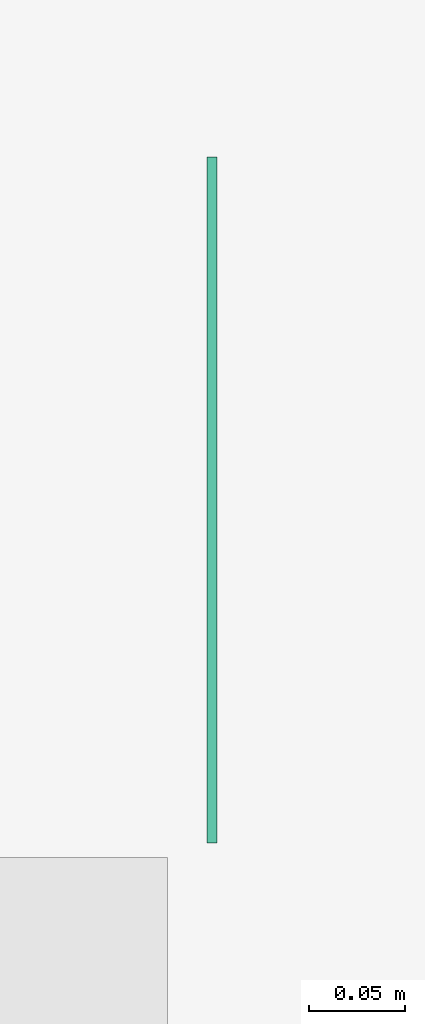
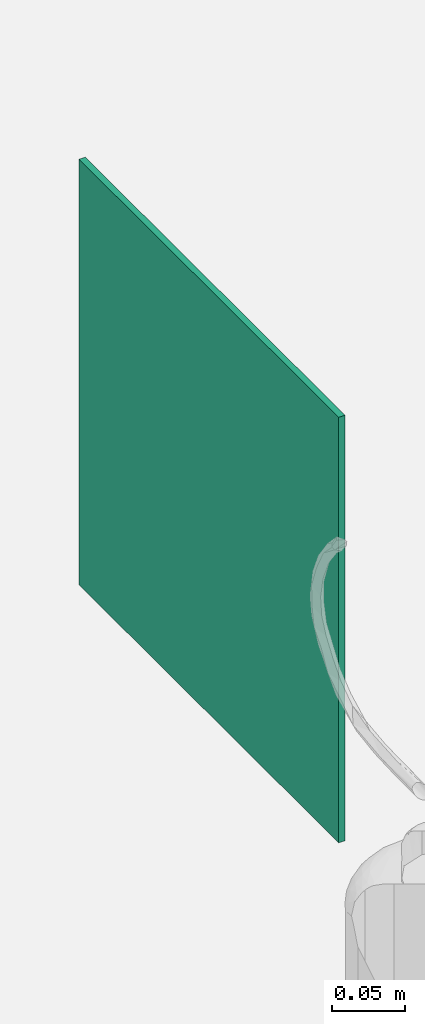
# One storey, part 3 of 6: 1 flow terminal.
"""IFC2X3 building model written with IfcOpenShell, lengths in metres."""

from ifc_helpers import new_model, entity, si_unit, converted_unit, derived_unit, direction, frame, frame_2d, origin, place, context, subcontext, project, spatial, polyline, circle_curve, parameter, trimmed, segment, composite_curve, outline, extrude, source, transform, mapped, material, material_list, type_object, type_shapes, element, save


model = new_model("IFC2X3")

# Units and contexts
model_context = context("Model", 3, precision=1e-05, world=origin(), true_north=direction((6.12303176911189e-17, 1.0)))
body_context = subcontext(model_context, "Body", "Model", "MODEL_VIEW")
ifc_project = project(units=[si_unit("LENGTHUNIT", "METRE"), si_unit("AREAUNIT", "SQUARE_METRE"), si_unit("VOLUMEUNIT", "CUBIC_METRE"), converted_unit("PLANEANGLEUNIT", "DEGREE", entity("IfcRatioMeasure", 0.0174532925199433), si_unit("PLANEANGLEUNIT", "RADIAN"), dimensions=[0, 0, 0, 0, 0, 0, 0]), si_unit("MASSUNIT", "GRAM", prefix="KILO"), derived_unit("MASSDENSITYUNIT", [(si_unit("MASSUNIT", "GRAM", prefix="KILO"), 1), (si_unit("LENGTHUNIT", "METRE"), -3)]), derived_unit("MOMENTOFINERTIAUNIT", [(si_unit("LENGTHUNIT", "METRE"), 4)]), si_unit("TIMEUNIT", "SECOND"), si_unit("FREQUENCYUNIT", "HERTZ"), si_unit("THERMODYNAMICTEMPERATUREUNIT", "DEGREE_CELSIUS"), derived_unit("THERMALTRANSMITTANCEUNIT", [(si_unit("MASSUNIT", "GRAM", prefix="KILO"), 1), (si_unit("THERMODYNAMICTEMPERATUREUNIT", "KELVIN"), -1), (si_unit("TIMEUNIT", "SECOND"), -3)]), derived_unit("VOLUMETRICFLOWRATEUNIT", [(si_unit("LENGTHUNIT", "METRE"), 3), (si_unit("TIMEUNIT", "SECOND"), -1)]), si_unit("ELECTRICCURRENTUNIT", "AMPERE"), si_unit("ELECTRICVOLTAGEUNIT", "VOLT"), si_unit("POWERUNIT", "WATT"), si_unit("FORCEUNIT", "NEWTON", prefix="KILO"), si_unit("ILLUMINANCEUNIT", "LUX"), si_unit("LUMINOUSFLUXUNIT", "LUMEN"), si_unit("LUMINOUSINTENSITYUNIT", "CANDELA"), derived_unit("USERDEFINED", [(si_unit("MASSUNIT", "GRAM", prefix="KILO"), -1), (si_unit("LENGTHUNIT", "METRE"), -2), (si_unit("TIMEUNIT", "SECOND"), 3), (si_unit("LUMINOUSFLUXUNIT", "LUMEN"), 1)]), derived_unit("LINEARVELOCITYUNIT", [(si_unit("LENGTHUNIT", "METRE"), 1), (si_unit("TIMEUNIT", "SECOND"), -1)]), si_unit("PRESSUREUNIT", "PASCAL"), derived_unit("USERDEFINED", [(si_unit("LENGTHUNIT", "METRE"), -2), (si_unit("MASSUNIT", "GRAM", prefix="KILO"), 1), (si_unit("TIMEUNIT", "SECOND"), -2)]), derived_unit("LINEARFORCEUNIT", [(si_unit("MASSUNIT", "GRAM", prefix="KILO"), 1), (si_unit("LENGTHUNIT", "METRE"), 1), (si_unit("TIMEUNIT", "SECOND"), -2), (si_unit("LENGTHUNIT", "METRE"), -1)]), derived_unit("PLANARFORCEUNIT", [(si_unit("MASSUNIT", "GRAM", prefix="KILO"), 1), (si_unit("LENGTHUNIT", "METRE"), 1), (si_unit("TIMEUNIT", "SECOND"), -2), (si_unit("LENGTHUNIT", "METRE"), -2)])], contexts=[model_context])

# Site, building, storey
site_placement = place(None, origin())
site = spatial("IfcSite", under=ifc_project, at=site_placement, Name="Default", CompositionType="ELEMENT")
building_placement = place(site_placement, origin())
building = spatial("IfcBuilding", under=site, at=building_placement, Name="C.L. MONSENHOR ANTÔNIO SAMPAIO", CompositionType="ELEMENT")
storey_placement = place(building_placement, frame((0.0, 0.0, 3.42)))
storey = spatial("IfcBuildingStorey", under=building, at=storey_placement, Name="Planta Baixa - Incêndio - Pav. Sup.", CompositionType="ELEMENT", Elevation=3.42)

# Flow terminal
ifc_material_1 = material(Name="Branco")
ifc_material_2 = material(Name="VERMELHO")
ifc_material_list = material_list([ifc_material_1, ifc_material_2])
distribution_element_type = type_object("IfcDistributionElementType", Name="E5:10 metros", material=ifc_material_1)
shared_shape = source(origin(), body_context, "Body", "SweptSolid", [
    extrude(outline(composite_curve([segment(polyline([(-0.254128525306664, -0.0465583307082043), (-0.0191285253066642, -0.0465583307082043)]), True, "CONTINUOUS"), segment(trimmed(circle_curve(frame_2d((-0.0664803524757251, 0.00975665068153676), x_axis=(0.0, 1.0)), 0.0735769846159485), [parameter(220.058428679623)], [parameter(257.560611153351)], True, "PARAMETER"), True, "CONTINUOUS"), segment(polyline([(0.00536937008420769, -0.00609232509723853), (0.0303693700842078, -0.006092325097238)]), True, "CONTINUOUS"), segment(polyline([(0.0303693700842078, -0.006092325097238), (0.0303693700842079, -0.0230808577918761)]), True, "CONTINUOUS"), segment(polyline([(0.0303693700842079, -0.0230808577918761), (0.0043083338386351, -0.0617179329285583)]), True, "CONTINUOUS"), segment(polyline([(0.0043083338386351, -0.0617179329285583), (-0.0104637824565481, -0.0643226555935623)]), True, "CONTINUOUS"), segment(polyline([(-0.0104637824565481, -0.0643226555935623), (-0.010463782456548, -0.0743226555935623)]), True, "CONTINUOUS"), segment(polyline([(-0.010463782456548, -0.0743226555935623), (0.0120002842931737, -0.0743226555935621)]), True, "CONTINUOUS"), segment(polyline([(0.0120002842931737, -0.0743226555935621), (0.0533610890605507, -0.0267424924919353)]), True, "CONTINUOUS"), segment(polyline([(0.0533610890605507, -0.0267424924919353), (0.0533610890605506, -0.00174249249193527)]), True, "CONTINUOUS"), segment(polyline([(0.0533610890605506, -0.00174249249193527), (0.0602467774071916, -0.00174249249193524)]), True, "CONTINUOUS"), segment(polyline([(0.0602467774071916, -0.00174249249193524), (0.0602467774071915, 0.0232575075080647)]), True, "CONTINUOUS"), segment(polyline([(0.0602467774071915, 0.0232575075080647), (0.0533610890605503, 0.0232575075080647)]), True, "CONTINUOUS"), segment(polyline([(0.0533610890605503, 0.0232575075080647), (0.0533610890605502, 0.0463624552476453)]), True, "CONTINUOUS"), segment(polyline([(0.0533610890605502, 0.0463624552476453), (0.0451773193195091, 0.0545462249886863)]), True, "CONTINUOUS"), segment(polyline([(0.0451773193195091, 0.0545462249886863), (0.0401773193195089, 0.0545462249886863)]), True, "CONTINUOUS"), segment(polyline([(0.0401773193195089, 0.0545462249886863), (0.0303693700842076, 0.0447382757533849)]), True, "CONTINUOUS"), segment(polyline([(0.0303693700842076, 0.0447382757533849), (0.0303693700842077, 0.0272220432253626)]), True, "CONTINUOUS"), segment(polyline([(0.0303693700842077, 0.0272220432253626), (0.00499364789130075, 0.0272220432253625)]), True, "CONTINUOUS"), segment(trimmed(circle_curve(frame_2d((-0.0664803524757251, 0.00975665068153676), x_axis=(0.0, 1.0)), 0.0735769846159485), [parameter(283.731707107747)], [parameter(319.941571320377)], True, "PARAMETER"), True, "CONTINUOUS"), segment(polyline([(-0.019128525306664, 0.0660716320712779), (-0.254128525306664, 0.0660716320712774)]), True, "CONTINUOUS"), segment(polyline([(-0.254128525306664, 0.0660716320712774), (-0.254128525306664, -0.0465583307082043)]), True, "CONTINUOUS")], self_intersect=False)), frame((-0.00975665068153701, -0.005, 0.271403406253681), z_axis=(0.0, 1.0, 0.0), x_axis=(0.0, 0.0, 1.0)), (0.0, 0.0, 1.0), 0.005),
    extrude(outline(polyline([(-0.179, -0.178999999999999), (0.179000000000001, -0.178999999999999), (0.179000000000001, 0.178999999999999), (-0.179000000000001, 0.178999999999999), (-0.179, -0.178999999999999)]), holes=[composite_curve([segment(polyline([(-0.0563149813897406, -0.161725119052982), (-0.056314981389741, 0.0732748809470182)]), True, "CONTINUOUS"), segment(trimmed(circle_curve(frame_2d((0.0, 0.025923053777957), x_axis=(-1.0, 0.0)), 0.0735769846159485), [parameter(283.731707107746)], [parameter(319.941571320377)], True, "PARAMETER"), False, "CONTINUOUS"), segment(polyline([(-0.0174653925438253, 0.0973970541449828), (-0.0174653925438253, 0.12277277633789)]), True, "CONTINUOUS"), segment(polyline([(-0.0174653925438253, 0.12277277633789), (-0.0349816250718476, 0.12277277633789)]), True, "CONTINUOUS"), segment(polyline([(-0.0349816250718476, 0.12277277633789), (-0.044789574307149, 0.132580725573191)]), True, "CONTINUOUS"), segment(polyline([(-0.044789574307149, 0.132580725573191), (-0.044789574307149, 0.137580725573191)]), True, "CONTINUOUS"), segment(polyline([(-0.044789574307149, 0.137580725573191), (-0.0366058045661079, 0.145764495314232)]), True, "CONTINUOUS"), segment(polyline([(-0.0366058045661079, 0.145764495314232), (-0.0135008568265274, 0.145764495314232)]), True, "CONTINUOUS"), segment(polyline([(-0.0135008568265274, 0.145764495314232), (-0.0135008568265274, 0.152650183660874)]), True, "CONTINUOUS"), segment(polyline([(-0.0135008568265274, 0.152650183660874), (0.0114991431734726, 0.152650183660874)]), True, "CONTINUOUS"), segment(polyline([(0.0114991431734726, 0.152650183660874), (0.0114991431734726, 0.145764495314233)]), True, "CONTINUOUS"), segment(polyline([(0.0114991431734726, 0.145764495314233), (0.0364991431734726, 0.145764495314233)]), True, "CONTINUOUS"), segment(polyline([(0.0364991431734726, 0.145764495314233), (0.0840793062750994, 0.104403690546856)]), True, "CONTINUOUS"), segment(polyline([(0.0840793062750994, 0.104403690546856), (0.0840793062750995, 0.081939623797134)]), True, "CONTINUOUS"), segment(polyline([(0.0840793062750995, 0.081939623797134), (0.0740793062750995, 0.0819396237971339)]), True, "CONTINUOUS"), segment(polyline([(0.0740793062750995, 0.0819396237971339), (0.0714745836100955, 0.0967117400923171)]), True, "CONTINUOUS"), segment(polyline([(0.0714745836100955, 0.0967117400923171), (0.0328375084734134, 0.12277277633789)]), True, "CONTINUOUS"), segment(polyline([(0.0328375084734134, 0.12277277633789), (0.0158489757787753, 0.12277277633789)]), True, "CONTINUOUS"), segment(polyline([(0.0158489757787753, 0.12277277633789), (0.0158489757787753, 0.0977727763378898)]), True, "CONTINUOUS"), segment(trimmed(circle_curve(frame_2d((0.0, 0.025923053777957), x_axis=(-1.0, 0.0)), 0.0735769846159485), [parameter(220.058428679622)], [parameter(257.560611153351)], True, "PARAMETER"), False, "CONTINUOUS"), segment(polyline([(0.0563149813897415, 0.0732748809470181), (0.0563149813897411, -0.161725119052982)]), True, "CONTINUOUS"), segment(polyline([(0.0563149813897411, -0.161725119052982), (-0.0563149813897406, -0.161725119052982)]), True, "CONTINUOUS")], self_intersect=False)]), frame((0.0, -0.005, 0.178999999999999), z_axis=(0.0, 1.0, 0.0), x_axis=(-1.0, 0.0, 0.0)), (0.0, 0.0, 1.0), 0.005),
])
type_shapes(distribution_element_type, [shared_shape])
flow_terminal_placement = place(storey_placement, frame((27.2334117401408, 23.1029087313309, 1.3), z_axis=(0.0, 0.0, 1.0), x_axis=(0.0, 1.0, 0.0)))
element("IfcFlowTerminal", 1, at=flow_terminal_placement, inside=storey, type_object=distribution_element_type, material=ifc_material_list, Name="E5:10 metros", ObjectType="E5:10 metros", context=body_context, shape_type="MappedRepresentation", body=[
    mapped(shared_shape, transform((0.0, 0.0, 0.0), scale=1.0)),
])

save(model, "model.ifc")
